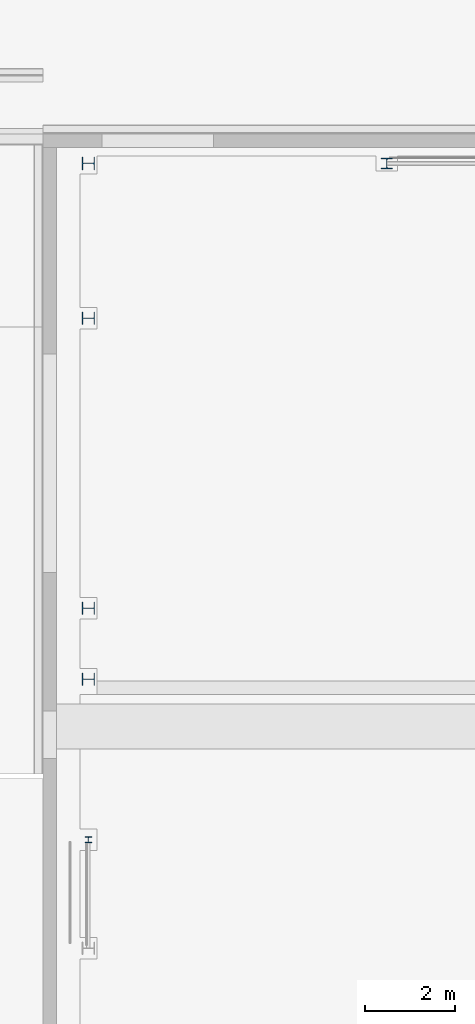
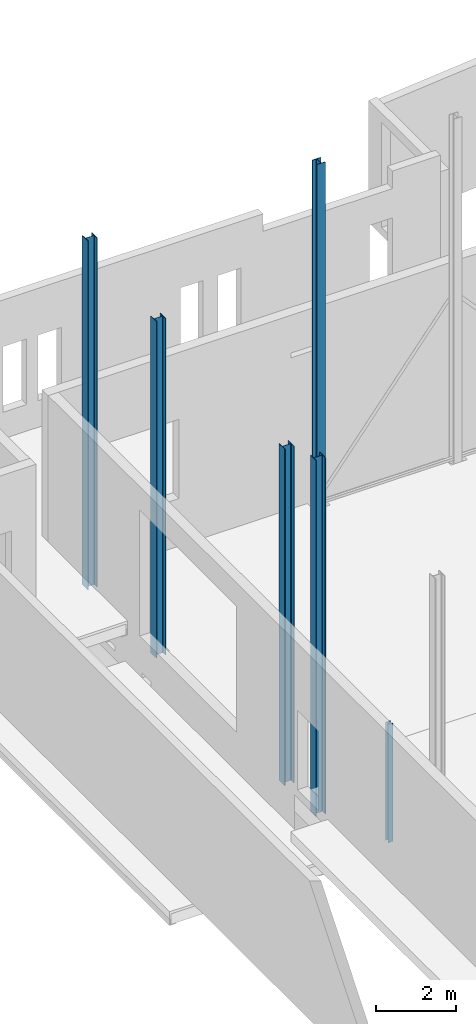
# One storey, part 3 of 37: 6 columns.
"""IFC2X3 building model written with IfcOpenShell, lengths in millimetres."""

from ifc_helpers import new_model, entity, si_unit, converted_unit, derived_unit, direction, frame, frame_2d, origin, place, context, subcontext, project, spatial, polyline, circle_curve, parameter, trimmed, segment, composite_curve, i_section, outline, extrude, source, transform, mapped, material, type_object, type_shapes, element, save


model = new_model("IFC2X3")

# Units and contexts
model_context = context("Model", 3, precision=0.01, world=origin(), true_north=direction((6.12303176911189e-17, 1.0)))
body_context = subcontext(model_context, "Body", "Model", "MODEL_VIEW")
ifc_project = project(units=[si_unit("LENGTHUNIT", "METRE", prefix="MILLI"), si_unit("AREAUNIT", "SQUARE_METRE", prefix="MILLI"), si_unit("VOLUMEUNIT", "CUBIC_METRE"), converted_unit("PLANEANGLEUNIT", "DEGREE", entity("IfcRatioMeasure", 0.0174532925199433), si_unit("PLANEANGLEUNIT", "RADIAN"), dimensions=[0, 0, 0, 0, 0, 0, 0]), si_unit("MASSUNIT", "GRAM", prefix="KILO"), derived_unit("MASSDENSITYUNIT", [(si_unit("MASSUNIT", "GRAM", prefix="KILO"), 1), (si_unit("LENGTHUNIT", "METRE"), -3)]), derived_unit("MOMENTOFINERTIAUNIT", [(si_unit("LENGTHUNIT", "METRE"), 4)]), si_unit("TIMEUNIT", "SECOND"), si_unit("FREQUENCYUNIT", "HERTZ"), si_unit("THERMODYNAMICTEMPERATUREUNIT", "DEGREE_CELSIUS"), derived_unit("THERMALTRANSMITTANCEUNIT", [(si_unit("MASSUNIT", "GRAM", prefix="KILO"), 1), (si_unit("THERMODYNAMICTEMPERATUREUNIT", "KELVIN"), -1), (si_unit("TIMEUNIT", "SECOND"), -3)]), derived_unit("VOLUMETRICFLOWRATEUNIT", [(si_unit("LENGTHUNIT", "METRE"), 3), (si_unit("TIMEUNIT", "SECOND"), -1)]), si_unit("ELECTRICCURRENTUNIT", "AMPERE"), si_unit("ELECTRICVOLTAGEUNIT", "VOLT"), si_unit("POWERUNIT", "WATT"), si_unit("FORCEUNIT", "NEWTON", prefix="KILO"), si_unit("ILLUMINANCEUNIT", "LUX"), si_unit("LUMINOUSFLUXUNIT", "LUMEN"), si_unit("LUMINOUSINTENSITYUNIT", "CANDELA"), derived_unit("USERDEFINED", [(si_unit("MASSUNIT", "GRAM", prefix="KILO"), -1), (si_unit("LENGTHUNIT", "METRE"), -2), (si_unit("TIMEUNIT", "SECOND"), 3), (si_unit("LUMINOUSFLUXUNIT", "LUMEN"), 1)]), derived_unit("LINEARVELOCITYUNIT", [(si_unit("LENGTHUNIT", "METRE"), 1), (si_unit("TIMEUNIT", "SECOND"), -1)]), si_unit("PRESSUREUNIT", "PASCAL"), derived_unit("USERDEFINED", [(si_unit("LENGTHUNIT", "METRE"), -2), (si_unit("MASSUNIT", "GRAM", prefix="KILO"), 1), (si_unit("TIMEUNIT", "SECOND"), -2)]), derived_unit("LINEARFORCEUNIT", [(si_unit("MASSUNIT", "GRAM", prefix="KILO"), 1), (si_unit("LENGTHUNIT", "METRE"), 1), (si_unit("TIMEUNIT", "SECOND"), -2), (si_unit("LENGTHUNIT", "METRE"), -1)]), derived_unit("PLANARFORCEUNIT", [(si_unit("MASSUNIT", "GRAM", prefix="KILO"), 1), (si_unit("LENGTHUNIT", "METRE"), 1), (si_unit("TIMEUNIT", "SECOND"), -2), (si_unit("LENGTHUNIT", "METRE"), -2)])], contexts=[model_context])

# Site, building, storey
site_placement = place(None, origin())
site = spatial("IfcSite", under=ifc_project, at=site_placement, Name="Theater aan de Parade", CompositionType="ELEMENT")
building_placement = place(site_placement, origin())
building = spatial("IfcBuilding", under=site, at=building_placement, Name="Theater aan de Parade", CompositionType="ELEMENT")
storey_placement = place(building_placement, frame((0.0, 0.0, 5020.0)))
storey = spatial("IfcBuildingStorey", under=building, at=storey_placement, Name="01 eerste verdieping", CompositionType="ELEMENT", Elevation=5020.0)

# Columns
ifc_material = material(Name="00_PBT_MAT_staal_S355")
column_type_1 = type_object("IfcColumnType", Name="28_PBT_SC_staal_H-profiel:S355_HE280B", PredefinedType="COLUMN", material=ifc_material)
shared_shape_1 = source(origin(), body_context, "Body", "SweptSolid", [
    extrude(outline(composite_curve([segment(polyline([(122.0, -140.0), (140.0, -140.0)]), True, "CONTINUOUS"), segment(polyline([(140.0, -140.0), (140.0, 140.0)]), True, "CONTINUOUS"), segment(polyline([(140.0, 140.0), (122.0, 140.0)]), True, "CONTINUOUS"), segment(polyline([(122.0, 140.0), (122.0, 29.25)]), True, "CONTINUOUS"), segment(trimmed(circle_curve(frame_2d((98.0, 29.25), x_axis=(1.0, 0.0)), 23.9999999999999), [parameter(269.999999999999)], [parameter(0.0)], True, "PARAMETER"), False, "CONTINUOUS"), segment(polyline([(98.0, 5.25000000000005), (-98.0, 5.25)]), True, "CONTINUOUS"), segment(trimmed(circle_curve(frame_2d((-98.0, 29.25), x_axis=(0.0, -1.0)), 24.0), [parameter(270.0)], [parameter(0.0)], True, "PARAMETER"), False, "CONTINUOUS"), segment(polyline([(-122.0, 29.2499999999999), (-122.0, 140.0)]), True, "CONTINUOUS"), segment(polyline([(-122.0, 140.0), (-140.0, 140.0)]), True, "CONTINUOUS"), segment(polyline([(-140.0, 140.0), (-140.0, -140.0)]), True, "CONTINUOUS"), segment(polyline([(-140.0, -140.0), (-122.0, -140.0)]), True, "CONTINUOUS"), segment(polyline([(-122.0, -140.0), (-122.0, -29.2500000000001)]), True, "CONTINUOUS"), segment(trimmed(circle_curve(frame_2d((-98.0, -29.25), x_axis=(-1.0, 0.0)), 24.0), [parameter(270.0)], [parameter(0.0)], True, "PARAMETER"), False, "CONTINUOUS"), segment(polyline([(-98.0, -5.25), (98.0, -5.24999999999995)]), True, "CONTINUOUS"), segment(trimmed(circle_curve(frame_2d((98.0, -29.2499999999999), x_axis=(0.0, 1.0)), 23.9999999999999), [parameter(270.0)], [parameter(0.0)], True, "PARAMETER"), False, "CONTINUOUS"), segment(polyline([(122.0, -29.25), (122.0, -140.0)]), True, "CONTINUOUS")], self_intersect=False)), frame((0.0, 0.0, 3545.0), z_axis=(0.0, 0.0, 1.0), x_axis=(0.0, -1.0, 0.0)), (0.0, 0.0, 1.0), 10865.0),
])
type_shapes(column_type_1, [shared_shape_1])
column_1_placement = place(storey_placement, frame((16053.8570032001, 29518.2922984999, -5020.0), z_axis=(0.0, 0.0, 1.0), x_axis=(0.0, 1.0, 0.0)))
element("IfcColumn", 1, at=column_1_placement, inside=storey, type_object=column_type_1, material=ifc_material, Name="28_PBT_SC_staal_H-profiel:S355_HE280B", ObjectType="28_PBT_SC_staal_H-profiel:S355_HE280B", context=body_context, shape_type="MappedRepresentation", body=[
    mapped(shared_shape_1, transform((0.0, 0.0, 0.0), scale=1.0)),
])
column_type_2 = type_object("IfcColumnType", Name="28_PBT_SC_staal_H-profiel:S355_HE280B", PredefinedType="COLUMN", material=ifc_material)
shared_shape_2 = source(origin(), body_context, "Body", "SweptSolid", [
    extrude(i_section(OverallWidth=279.999999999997, OverallDepth=279.999999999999, WebThickness=10.4999999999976, FlangeThickness=18.0000000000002, FilletRadius=24.0000000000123, at=frame_2d((-4.32009983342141e-12, -1.08002495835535e-12), x_axis=(1.0, 0.0))), frame((16053.8570032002, 40923.3083270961, 3545.0), z_axis=(0.0, 0.0, 1.0), x_axis=(0.0, -1.0, 0.0)), (0.0, 0.0, 1.0), 10645.0),
])
type_shapes(column_type_2, [shared_shape_2])
column_2_placement = place(storey_placement, frame((0.0, 0.0, -5020.0)))
element("IfcColumn", 2, at=column_2_placement, inside=storey, type_object=column_type_2, material=ifc_material, Name="28_PBT_SC_staal_H-profiel:S355_HE280B", ObjectType="28_PBT_SC_staal_H-profiel:S355_HE280B", context=body_context, shape_type="MappedRepresentation", body=[
    mapped(shared_shape_2, transform((0.0, 0.0, 0.0), scale=1.0)),
])
column_type_3 = type_object("IfcColumnType", Name="28_PBT_SC_staal_H-profiel:S355_HE240B", PredefinedType="COLUMN", material=ifc_material)
shared_shape_3 = source(origin(), body_context, "Body", "SweptSolid", [
    extrude(i_section(OverallWidth=240.000000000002, OverallDepth=239.999999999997, WebThickness=10.0000000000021, FlangeThickness=16.9999999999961, FilletRadius=21.0000000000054, at=frame_2d((-4.33431068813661e-12, 2.16715534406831e-12), x_axis=(0.0, 1.0))), frame((22653.8570032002, 40923.3083270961, 3545.0), z_axis=(0.0, 0.0, 1.0), x_axis=(0.0, -1.0, 0.0)), (0.0, 0.0, 1.0), 10645.0),
])
type_shapes(column_type_3, [shared_shape_3])
column_3_placement = place(storey_placement, frame((0.0, 0.0, -5020.0)))
element("IfcColumn", 3, at=column_3_placement, inside=storey, type_object=column_type_3, material=ifc_material, Name="28_PBT_SC_staal_H-profiel:S355_HE240B", ObjectType="28_PBT_SC_staal_H-profiel:S355_HE240B", context=body_context, shape_type="MappedRepresentation", body=[
    mapped(shared_shape_3, transform((0.0, 0.0, 0.0), scale=1.0)),
])
column_type_4 = type_object("IfcColumnType", Name="28_PBT_SC_staal_H-profiel:S355_HE280B", PredefinedType="COLUMN", material=ifc_material)
shared_shape_4 = source(origin(), body_context, "Body", "SweptSolid", [
    extrude(i_section(OverallWidth=280.000000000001, OverallDepth=279.999999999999, WebThickness=10.5000000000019, FlangeThickness=18.0000000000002, FilletRadius=23.9999999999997, at=frame_2d((6.49436060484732e-12, -3.24007487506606e-12), x_axis=(1.0, 0.0))), frame((16053.8570032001, 31086.3144978, 3545.0), z_axis=(0.0, 0.0, 1.0), x_axis=(0.0, -1.0, 0.0)), (0.0, 0.0, 1.0), 10265.0),
])
type_shapes(column_type_4, [shared_shape_4])
column_4_placement = place(storey_placement, frame((0.0, 0.0, -5020.0)))
element("IfcColumn", 4, at=column_4_placement, inside=storey, type_object=column_type_4, material=ifc_material, Name="28_PBT_SC_staal_H-profiel:S355_HE280B", ObjectType="28_PBT_SC_staal_H-profiel:S355_HE280B", context=body_context, shape_type="MappedRepresentation", body=[
    mapped(shared_shape_4, transform((0.0, 0.0, 0.0), scale=1.0)),
])
column_type_5 = type_object("IfcColumnType", Name="28_PBT_SC_staal_H-profiel:S355_HE280B", PredefinedType="COLUMN", material=ifc_material)
shared_shape_5 = source(origin(), body_context, "Body", "SweptSolid", [
    extrude(i_section(OverallWidth=280.000000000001, OverallDepth=279.999999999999, WebThickness=10.5000000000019, FlangeThickness=18.0000000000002, FilletRadius=23.9999999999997, at=frame_2d((-2.1600499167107e-12, -1.08002495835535e-12), x_axis=(1.0, 0.0))), frame((16053.8570032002, 37500.31449785, 3545.0), z_axis=(0.0, 0.0, 1.0), x_axis=(0.0, -1.0, 0.0)), (0.0, 0.0, 1.0), 10265.0),
])
type_shapes(column_type_5, [shared_shape_5])
column_5_placement = place(storey_placement, frame((0.0, 0.0, -5020.0)))
element("IfcColumn", 5, at=column_5_placement, inside=storey, type_object=column_type_5, material=ifc_material, Name="28_PBT_SC_staal_H-profiel:S355_HE280B", ObjectType="28_PBT_SC_staal_H-profiel:S355_HE280B", context=body_context, shape_type="MappedRepresentation", body=[
    mapped(shared_shape_5, transform((0.0, 0.0, 0.0), scale=1.0)),
])
column_type_6 = type_object("IfcColumnType", Name="28_PBT_SC_staal_H-profiel:S355_HE140A", PredefinedType="COLUMN", material=ifc_material)
shared_shape_6 = source(origin(), body_context, "Body", "SweptSolid", [
    extrude(i_section(OverallWidth=140.000000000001, OverallDepth=132.999999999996, WebThickness=5.50000000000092, FlangeThickness=8.49999999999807, FilletRadius=12.0000000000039, at=frame_2d((-6.49436060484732e-12, 5.41433564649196e-12), x_axis=(0.0, 1.0))), frame((16053.8570032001, 25963.2922985, 4845.0), z_axis=(0.0, 0.0, 1.0), x_axis=(0.0, -1.0, 0.0)), (0.0, 0.0, 1.0), 3605.0),
])
type_shapes(column_type_6, [shared_shape_6])
column_6_placement = place(storey_placement, frame((0.0, 0.0, -5020.0)))
element("IfcColumn", 6, at=column_6_placement, inside=storey, type_object=column_type_6, material=ifc_material, Name="28_PBT_SC_staal_H-profiel:S355_HE140A", ObjectType="28_PBT_SC_staal_H-profiel:S355_HE140A", context=body_context, shape_type="MappedRepresentation", body=[
    mapped(shared_shape_6, transform((0.0, 0.0, 0.0), scale=1.0)),
])

save(model, "model.ifc")
